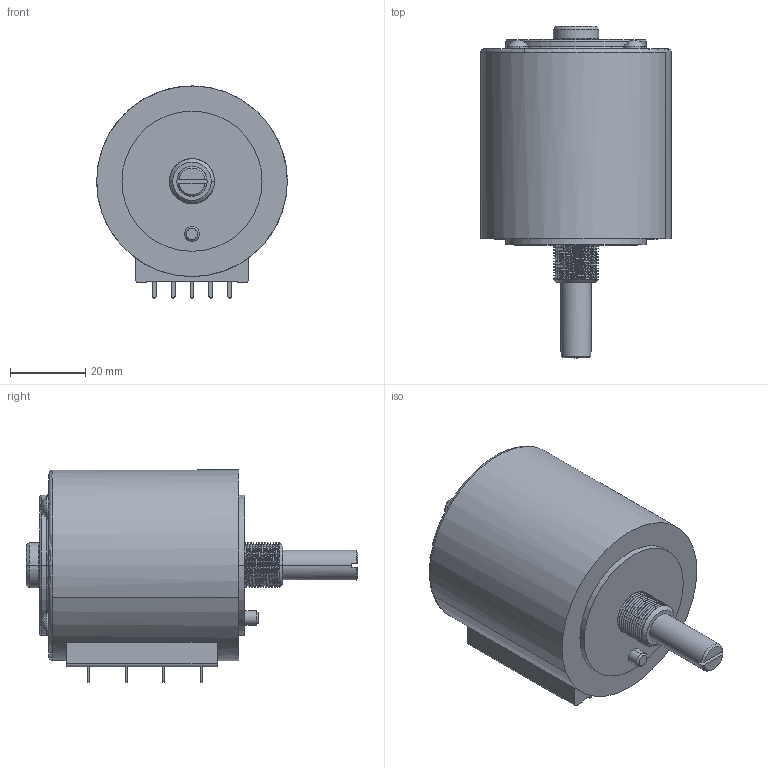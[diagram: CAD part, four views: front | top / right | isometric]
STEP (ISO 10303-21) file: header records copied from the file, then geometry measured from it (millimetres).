
FILE_DESCRIPTION (( 'STEP AP214' ), '1' );
FILE_NAME ('RK50114A0001.STEP', '2012-01-11T05:13:21', ( '' ), ( '' ), 'SwSTEP 2.0', 'SolidWorks 2010', '' );
FILE_SCHEMA (( 'AUTOMOTIVE_DESIGN' ));
Length unit declared in the file: millimetre
Products named in the file (1): RK50114A0001
Bounding box: 50.6 x 88.1 x 56.3 mm (x, y, z)
Volume: 111933.7 mm3; surface area: 14625.7 mm2
Topology: 1 solids, 1 shells, 205 faces, 514 edges, 337 vertices
Faces by surface type: plane 110, cylinder 67, cone 8, torus 8, sphere 8, bspline 4
Entity records: 10938 total; most frequent: CARTESIAN_POINT 3818, ORIENTED_EDGE 1028, DIRECTION 1018, EDGE_CURVE 514, AXIS2_PLACEMENT_3D 364, VERTEX_POINT 337, VECTOR 290, LINE 290
